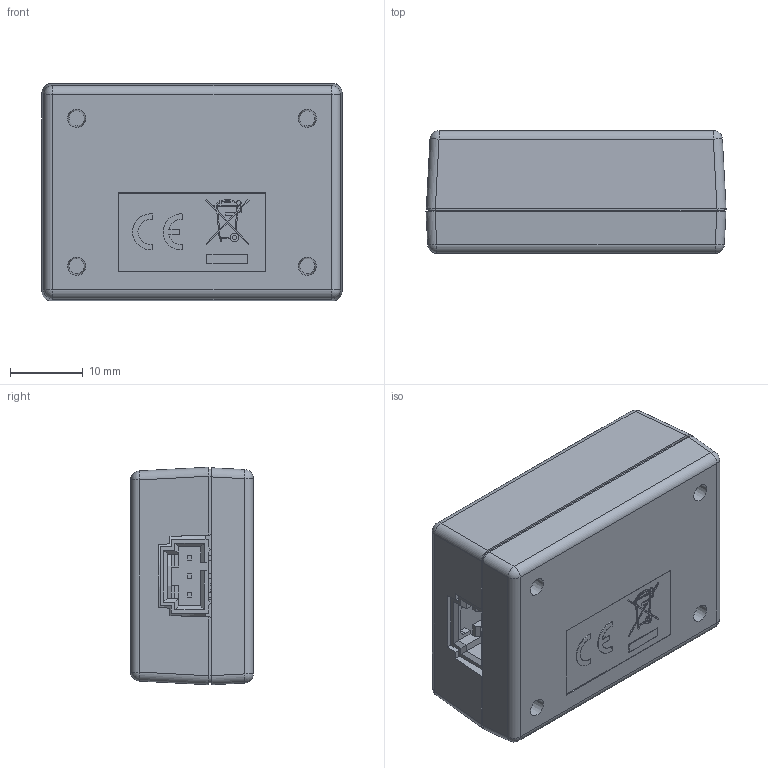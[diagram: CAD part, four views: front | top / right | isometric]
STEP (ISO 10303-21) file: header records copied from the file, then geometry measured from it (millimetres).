
FILE_DESCRIPTION(/* description */ ('Alibre Inc.'),/* implementation_level */ '2;1');
FILE_NAME(/* name */ 'export-A7C43132-EECB-4E07-9A66-5FF82C4690B7',/* time_stamp */ '2019-07-10T10:28:14-06:00',/* author */ (''),/* organization */ (''),/* preprocessor_version */ 'ST-DEVELOPER v17',/* originating_system */ 'Alibre',/* authorisation */ '');
FILE_SCHEMA (('CONFIG_CONTROL_DESIGN'));
Length unit declared in the file: centimetre
Products named in the file (75): ID_1; ID_2; ID_3; ID_4; ID_5; ID_6; ID_7; ID_8; ID_9; ID_10; ID_11; ID_12; ID_13; ID_14; ID_15; ID_16; ID_17; ID_18; ID_19; ID_20; ID_21; ID_22; ID_23; ID_24; ID_25; ID_26; ID_27; ID_28; ID_29; ID_30; ID_31; ID_32; ID_33; ID_34; ID_35; ID_36; ID_37; ID_38; ID_39; ID_40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
Bounding box: 41.28 x 16.87 x 29.93 mm (x, y, z)
Volume: 8749.3 mm3; surface area: 13030.2 mm2
Topology: 112 solids, 112 shells, 1815 faces, 4642 edges, 3072 vertices
Faces by surface type: plane 1683, cylinder 93, bspline 17, cone 14, sphere 8
Full cylindrical faces by diameter (mm): 0.6 x1, 0.965 x3, 3.124 x4, 3.175 x4
Entity records: 33077 total; most frequent: CARTESIAN_POINT 5499, ORIENTED_EDGE 4000, DIRECTION 3375, EDGE_CURVE 2000, VECTOR 1707, LINE 1707, VERTEX_POINT 1323, AXIS2_PLACEMENT_3D 1137
